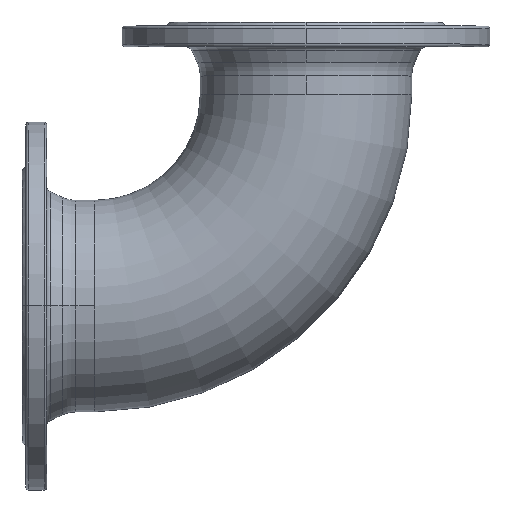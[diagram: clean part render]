
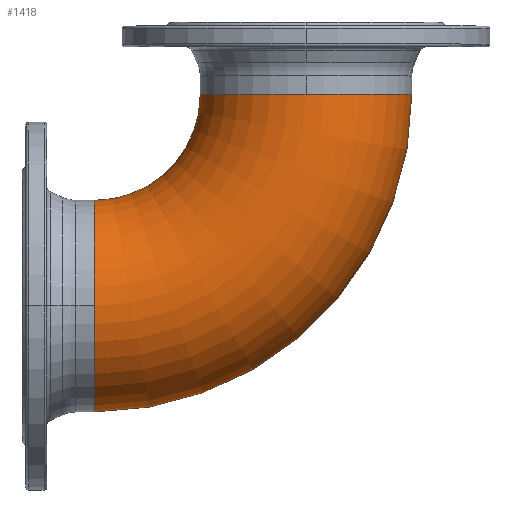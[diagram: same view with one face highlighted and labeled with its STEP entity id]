
A CAD part, top view. The second image highlights one B-rep face of the part: STEP entity #1418.
In plain terms, the highlighted toroidal (fillet/blend) face has major radius 164 mm and minor radius 82 mm.
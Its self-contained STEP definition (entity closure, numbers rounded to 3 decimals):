
#52 = AXIS2_PLACEMENT_3D ( 'NONE', #4537, #1709, #2792 ) ;
#165 = DIRECTION ( 'NONE',  ( 0., 0., -1. ) ) ;
#315 = ORIENTED_EDGE ( 'NONE', *, *, #2955, .F. ) ;
#432 = DIRECTION ( 'NONE',  ( 0., 0., -1. ) ) ;
#664 = CIRCLE ( 'NONE', #52, 246. ) ;
#768 = EDGE_CURVE ( 'NONE', #3036, #3598, #664, .T. ) ;
#781 = AXIS2_PLACEMENT_3D ( 'NONE', #4434, #883, #4407 ) ;
#883 = DIRECTION ( 'NONE',  ( 0., 0., 1. ) ) ;
#914 = DIRECTION ( 'NONE',  ( 0., 0., -1. ) ) ;
#1070 = DIRECTION ( 'NONE',  ( 0., 1., 0. ) ) ;
#1138 = AXIS2_PLACEMENT_3D ( 'NONE', #2231, #1070, #432 ) ;
#1191 = DIRECTION ( 'NONE',  ( 1., 0., 0. ) ) ;
#1233 = TOROIDAL_SURFACE ( 'NONE', #781, 164., 82. ) ;
#1418 = ADVANCED_FACE ( 'Defeatured_0_5', ( #4379 ), #1233, .T. ) ;
#1475 = CARTESIAN_POINT ( 'NONE',  ( 302., 164., 0. ) ) ;
#1522 = CARTESIAN_POINT ( 'NONE',  ( 138., 164., 0. ) ) ;
#1550 = EDGE_CURVE ( 'Defeatured_0_3+Defeatured_0_5+Defeatured_0_5+Defeatured_0_5', #2484, #2429, #3522, .T. ) ;
#1555 = DIRECTION ( 'NONE',  ( 1., 0., 0. ) ) ;
#1630 = DIRECTION ( 'NONE',  ( 1., 0., 0. ) ) ;
#1709 = DIRECTION ( 'NONE',  ( 0., 0., 1. ) ) ;
#1804 = ORIENTED_EDGE ( 'NONE', *, *, #1550, .F. ) ;
#1861 = DIRECTION ( 'NONE',  ( 0., 0., -1. ) ) ;
#1877 = VERTEX_POINT ( 'NONE', #4045 ) ;
#1941 = CARTESIAN_POINT ( 'NONE',  ( 56., 0., 0. ) ) ;
#2102 = EDGE_CURVE ( 'Defeatured_0_3+Defeatured_0_5+Defeatured_0_5+Defeatured_0_5', #2429, #3598, #3188, .T. ) ;
#2179 = ORIENTED_EDGE ( 'NONE', *, *, #4460, .T. ) ;
#2231 = CARTESIAN_POINT ( 'NONE',  ( 220., 164., 0. ) ) ;
#2415 = CARTESIAN_POINT ( 'NONE',  ( 56., 164., 0. ) ) ;
#2429 = VERTEX_POINT ( 'NONE', #4421 ) ;
#2484 = VERTEX_POINT ( 'NONE', #1522 ) ;
#2487 = CARTESIAN_POINT ( 'NONE',  ( 56., -82., 0. ) ) ;
#2518 = AXIS2_PLACEMENT_3D ( 'NONE', #2415, #3862, #1630 ) ;
#2619 = ORIENTED_EDGE ( 'NONE', *, *, #3737, .T. ) ;
#2750 = CARTESIAN_POINT ( 'NONE',  ( 56., 0., 0. ) ) ;
#2762 = CARTESIAN_POINT ( 'NONE',  ( 220., 164., 0. ) ) ;
#2792 = DIRECTION ( 'NONE',  ( 1., 0., 0. ) ) ;
#2901 = CIRCLE ( 'NONE', #2518, 82. ) ;
#2955 = EDGE_CURVE ( 'NONE', #4085, #2484, #2901, .T. ) ;
#3036 = VERTEX_POINT ( 'NONE', #2487 ) ;
#3186 = EDGE_LOOP ( 'NONE', ( #2619, #4078, #4090, #1804, #315, #2179 ) ) ;
#3188 = CIRCLE ( 'NONE', #1138, 82. ) ;
#3299 = CARTESIAN_POINT ( 'NONE',  ( 56., 82., 0. ) ) ;
#3434 = AXIS2_PLACEMENT_3D ( 'NONE', #2750, #1191, #914 ) ;
#3522 = CIRCLE ( 'NONE', #3748, 82. ) ;
#3598 = VERTEX_POINT ( 'NONE', #1475 ) ;
#3737 = EDGE_CURVE ( 'Defeatured_0_5+Defeatured_0_4+Defeatured_0_4+Defeatured_0_4', #1877, #3036, #4109, .T. ) ;
#3748 = AXIS2_PLACEMENT_3D ( 'NONE', #2762, #4172, #165 ) ;
#3807 = CIRCLE ( 'NONE', #4021, 82. ) ;
#3862 = DIRECTION ( 'NONE',  ( 0., 0., 1. ) ) ;
#4021 = AXIS2_PLACEMENT_3D ( 'NONE', #1941, #1555, #1861 ) ;
#4045 = CARTESIAN_POINT ( 'NONE',  ( 56., 0., 82. ) ) ;
#4078 = ORIENTED_EDGE ( 'NONE', *, *, #768, .T. ) ;
#4085 = VERTEX_POINT ( 'NONE', #3299 ) ;
#4090 = ORIENTED_EDGE ( 'NONE', *, *, #2102, .F. ) ;
#4109 = CIRCLE ( 'NONE', #3434, 82. ) ;
#4172 = DIRECTION ( 'NONE',  ( 0., 1., 0. ) ) ;
#4379 = FACE_OUTER_BOUND ( 'NONE', #3186, .T. ) ;
#4407 = DIRECTION ( 'NONE',  ( 1., 0., 0. ) ) ;
#4421 = CARTESIAN_POINT ( 'NONE',  ( 220., 164., 82. ) ) ;
#4434 = CARTESIAN_POINT ( 'NONE',  ( 56., 164., 0. ) ) ;
#4460 = EDGE_CURVE ( 'Defeatured_0_5+Defeatured_0_4+Defeatured_0_4+Defeatured_0_4', #4085, #1877, #3807, .T. ) ;
#4537 = CARTESIAN_POINT ( 'NONE',  ( 56., 164., 0. ) ) ;
